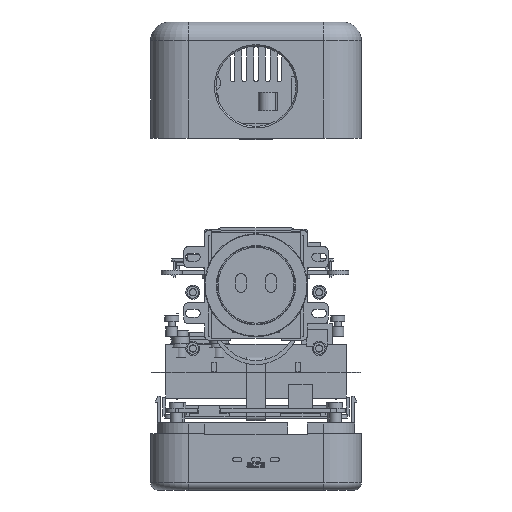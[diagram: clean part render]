
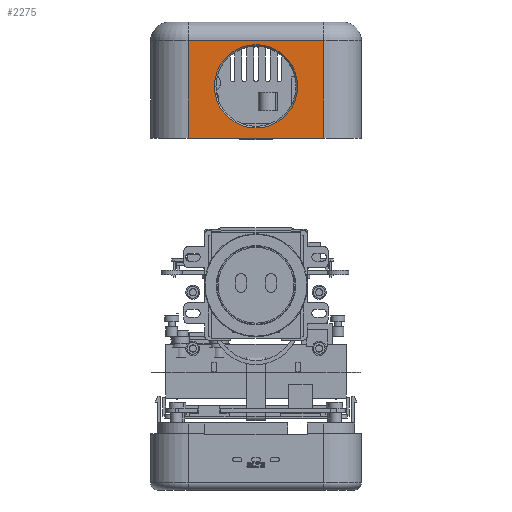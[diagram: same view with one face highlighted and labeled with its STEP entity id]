
A CAD part, front view. The second image highlights one B-rep face of the part: STEP entity #2275.
In plain terms, the highlighted planar face has unit normal (0, -1, 0).
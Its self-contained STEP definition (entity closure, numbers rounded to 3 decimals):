
#426 = CYLINDRICAL_SURFACE('',#427,16.);
#427 = AXIS2_PLACEMENT_3D('',#428,#429,#430);
#428 = CARTESIAN_POINT('',(-29.,-23.,0.));
#429 = DIRECTION('',(0.,0.,1.));
#430 = DIRECTION('',(-1.,-0.,0.));
#453 = PLANE('',#454);
#454 = AXIS2_PLACEMENT_3D('',#455,#456,#457);
#455 = CARTESIAN_POINT('',(-100.,-100.,24.35));
#456 = DIRECTION('',(0.,0.,1.));
#457 = DIRECTION('',(1.,0.,0.));
#735 = VERTEX_POINT('',#736);
#736 = CARTESIAN_POINT('',(-29.,-39.,24.35));
#758 = EDGE_CURVE('',#735,#759,#761,.T.);
#759 = VERTEX_POINT('',#760);
#760 = CARTESIAN_POINT('',(-29.,-39.,66.));
#761 = SURFACE_CURVE('',#762,(#766,#773),.PCURVE_S1.);
#762 = LINE('',#763,#764);
#763 = CARTESIAN_POINT('',(-29.,-39.,0.));
#764 = VECTOR('',#765,1.);
#765 = DIRECTION('',(0.,0.,1.));
#766 = PCURVE('',#426,#767);
#767 = DEFINITIONAL_REPRESENTATION('',(#768),#772);
#768 = LINE('',#769,#770);
#769 = CARTESIAN_POINT('',(1.571,0.));
#770 = VECTOR('',#771,1.);
#771 = DIRECTION('',(0.,1.));
#772 = ( GEOMETRIC_REPRESENTATION_CONTEXT(2) 
PARAMETRIC_REPRESENTATION_CONTEXT() REPRESENTATION_CONTEXT('2D SPACE',''
  ) );
#773 = PCURVE('',#774,#779);
#774 = PLANE('',#775);
#775 = AXIS2_PLACEMENT_3D('',#776,#777,#778);
#776 = CARTESIAN_POINT('',(-45.,-39.,0.));
#777 = DIRECTION('',(0.,1.,0.));
#778 = DIRECTION('',(0.,0.,1.));
#779 = DEFINITIONAL_REPRESENTATION('',(#780),#784);
#780 = LINE('',#781,#782);
#781 = CARTESIAN_POINT('',(0.,16.));
#782 = VECTOR('',#783,1.);
#783 = DIRECTION('',(1.,0.));
#784 = ( GEOMETRIC_REPRESENTATION_CONTEXT(2) 
PARAMETRIC_REPRESENTATION_CONTEXT() REPRESENTATION_CONTEXT('2D SPACE',''
  ) );
#842 = EDGE_CURVE('',#735,#843,#845,.T.);
#843 = VERTEX_POINT('',#844);
#844 = CARTESIAN_POINT('',(29.,-39.,24.35));
#845 = SURFACE_CURVE('',#846,(#850,#856),.PCURVE_S1.);
#846 = LINE('',#847,#848);
#847 = CARTESIAN_POINT('',(-72.5,-39.,24.35));
#848 = VECTOR('',#849,1.);
#849 = DIRECTION('',(1.,0.,0.));
#850 = PCURVE('',#453,#851);
#851 = DEFINITIONAL_REPRESENTATION('',(#852),#855);
#852 = B_SPLINE_CURVE_WITH_KNOTS('',1,(#853,#854),.UNSPECIFIED.,.F.,.F.,
  (2,2),(43.5,101.5),.PIECEWISE_BEZIER_KNOTS.);
#853 = CARTESIAN_POINT('',(71.,61.));
#854 = CARTESIAN_POINT('',(129.,61.));
#855 = ( GEOMETRIC_REPRESENTATION_CONTEXT(2) 
PARAMETRIC_REPRESENTATION_CONTEXT() REPRESENTATION_CONTEXT('2D SPACE',''
  ) );
#856 = PCURVE('',#774,#857);
#857 = DEFINITIONAL_REPRESENTATION('',(#858),#861);
#858 = B_SPLINE_CURVE_WITH_KNOTS('',1,(#859,#860),.UNSPECIFIED.,.F.,.F.,
  (2,2),(43.5,101.5),.PIECEWISE_BEZIER_KNOTS.);
#859 = CARTESIAN_POINT('',(24.35,16.));
#860 = CARTESIAN_POINT('',(24.35,74.));
#861 = ( GEOMETRIC_REPRESENTATION_CONTEXT(2) 
PARAMETRIC_REPRESENTATION_CONTEXT() REPRESENTATION_CONTEXT('2D SPACE',''
  ) );
#880 = CYLINDRICAL_SURFACE('',#881,16.);
#881 = AXIS2_PLACEMENT_3D('',#882,#883,#884);
#882 = CARTESIAN_POINT('',(29.,-23.,0.));
#883 = DIRECTION('',(0.,0.,1.));
#884 = DIRECTION('',(1.,0.,-0.));
#2237 = CYLINDRICAL_SURFACE('',#2238,8.);
#2238 = AXIS2_PLACEMENT_3D('',#2239,#2240,#2241);
#2239 = CARTESIAN_POINT('',(29.,-31.,66.));
#2240 = DIRECTION('',(-1.,-0.,-0.));
#2241 = DIRECTION('',(0.,-1.,0.));
#2275 = ADVANCED_FACE('',(#2276,#2324),#774,.F.);
#2276 = FACE_BOUND('',#2277,.F.);
#2277 = EDGE_LOOP('',(#2278,#2279,#2280,#2303));
#2278 = ORIENTED_EDGE('',*,*,#842,.F.);
#2279 = ORIENTED_EDGE('',*,*,#758,.T.);
#2280 = ORIENTED_EDGE('',*,*,#2281,.F.);
#2281 = EDGE_CURVE('',#2282,#759,#2284,.T.);
#2282 = VERTEX_POINT('',#2283);
#2283 = CARTESIAN_POINT('',(29.,-39.,66.));
#2284 = SURFACE_CURVE('',#2285,(#2289,#2296),.PCURVE_S1.);
#2285 = LINE('',#2286,#2287);
#2286 = CARTESIAN_POINT('',(29.,-39.,66.));
#2287 = VECTOR('',#2288,1.);
#2288 = DIRECTION('',(-1.,-0.,-0.));
#2289 = PCURVE('',#774,#2290);
#2290 = DEFINITIONAL_REPRESENTATION('',(#2291),#2295);
#2291 = LINE('',#2292,#2293);
#2292 = CARTESIAN_POINT('',(66.,74.));
#2293 = VECTOR('',#2294,1.);
#2294 = DIRECTION('',(-0.,-1.));
#2295 = ( GEOMETRIC_REPRESENTATION_CONTEXT(2) 
PARAMETRIC_REPRESENTATION_CONTEXT() REPRESENTATION_CONTEXT('2D SPACE',''
  ) );
#2296 = PCURVE('',#2237,#2297);
#2297 = DEFINITIONAL_REPRESENTATION('',(#2298),#2302);
#2298 = LINE('',#2299,#2300);
#2299 = CARTESIAN_POINT('',(0.,0.));
#2300 = VECTOR('',#2301,1.);
#2301 = DIRECTION('',(0.,1.));
#2302 = ( GEOMETRIC_REPRESENTATION_CONTEXT(2) 
PARAMETRIC_REPRESENTATION_CONTEXT() REPRESENTATION_CONTEXT('2D SPACE',''
  ) );
#2303 = ORIENTED_EDGE('',*,*,#2304,.F.);
#2304 = EDGE_CURVE('',#843,#2282,#2305,.T.);
#2305 = SURFACE_CURVE('',#2306,(#2310,#2317),.PCURVE_S1.);
#2306 = LINE('',#2307,#2308);
#2307 = CARTESIAN_POINT('',(29.,-39.,0.));
#2308 = VECTOR('',#2309,1.);
#2309 = DIRECTION('',(0.,0.,1.));
#2310 = PCURVE('',#774,#2311);
#2311 = DEFINITIONAL_REPRESENTATION('',(#2312),#2316);
#2312 = LINE('',#2313,#2314);
#2313 = CARTESIAN_POINT('',(0.,74.));
#2314 = VECTOR('',#2315,1.);
#2315 = DIRECTION('',(1.,0.));
#2316 = ( GEOMETRIC_REPRESENTATION_CONTEXT(2) 
PARAMETRIC_REPRESENTATION_CONTEXT() REPRESENTATION_CONTEXT('2D SPACE',''
  ) );
#2317 = PCURVE('',#880,#2318);
#2318 = DEFINITIONAL_REPRESENTATION('',(#2319),#2323);
#2319 = LINE('',#2320,#2321);
#2320 = CARTESIAN_POINT('',(-1.571,0.));
#2321 = VECTOR('',#2322,1.);
#2322 = DIRECTION('',(-0.,1.));
#2323 = ( GEOMETRIC_REPRESENTATION_CONTEXT(2) 
PARAMETRIC_REPRESENTATION_CONTEXT() REPRESENTATION_CONTEXT('2D SPACE',''
  ) );
#2324 = FACE_BOUND('',#2325,.F.);
#2325 = EDGE_LOOP('',(#2326));
#2326 = ORIENTED_EDGE('',*,*,#2327,.F.);
#2327 = EDGE_CURVE('',#2328,#2328,#2330,.T.);
#2328 = VERTEX_POINT('',#2329);
#2329 = CARTESIAN_POINT('',(0.,-39.,64.291));
#2330 = SURFACE_CURVE('',#2331,(#2336,#2343),.PCURVE_S1.);
#2331 = CIRCLE('',#2332,17.791);
#2332 = AXIS2_PLACEMENT_3D('',#2333,#2334,#2335);
#2333 = CARTESIAN_POINT('',(0.,-39.,46.5));
#2334 = DIRECTION('',(0.,1.,0.));
#2335 = DIRECTION('',(0.,-0.,1.));
#2336 = PCURVE('',#774,#2337);
#2337 = DEFINITIONAL_REPRESENTATION('',(#2338),#2342);
#2338 = CIRCLE('',#2339,17.791);
#2339 = AXIS2_PLACEMENT_2D('',#2340,#2341);
#2340 = CARTESIAN_POINT('',(46.5,45.));
#2341 = DIRECTION('',(1.,0.));
#2342 = ( GEOMETRIC_REPRESENTATION_CONTEXT(2) 
PARAMETRIC_REPRESENTATION_CONTEXT() REPRESENTATION_CONTEXT('2D SPACE',''
  ) );
#2343 = PCURVE('',#2344,#2349);
#2344 = CONICAL_SURFACE('',#2345,17.8,0.719);
#2345 = AXIS2_PLACEMENT_3D('',#2346,#2347,#2348);
#2346 = CARTESIAN_POINT('',(0.,-39.01,46.5));
#2347 = DIRECTION('',(-0.,-1.,-0.));
#2348 = DIRECTION('',(0.,-0.,1.));
#2349 = DEFINITIONAL_REPRESENTATION('',(#2350),#2354);
#2350 = LINE('',#2351,#2352);
#2351 = CARTESIAN_POINT('',(-0.,-0.01));
#2352 = VECTOR('',#2353,1.);
#2353 = DIRECTION('',(-1.,-0.));
#2354 = ( GEOMETRIC_REPRESENTATION_CONTEXT(2) 
PARAMETRIC_REPRESENTATION_CONTEXT() REPRESENTATION_CONTEXT('2D SPACE',''
  ) );
